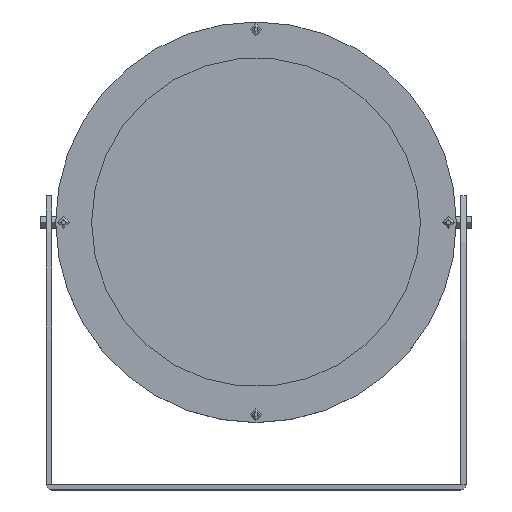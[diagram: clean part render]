
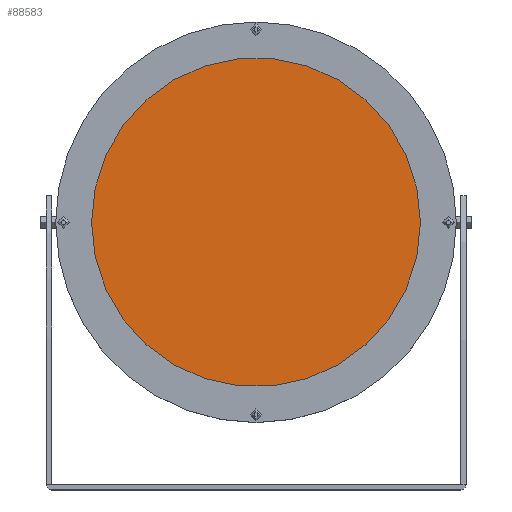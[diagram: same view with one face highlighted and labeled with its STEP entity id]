
A CAD part, top view. The second image highlights one B-rep face of the part: STEP entity #88583.
In plain terms, the highlighted planar face has unit normal (0, 0, 1).
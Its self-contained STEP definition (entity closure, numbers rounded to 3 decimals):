
#9546=PLANE('',#97561);
#14502=FACE_OUTER_BOUND('',#20061,.T.);
#20061=EDGE_LOOP('',(#80506));
#32783=CIRCLE('',#97559,68.75);
#41101=VERTEX_POINT('',#267268);
#54311=EDGE_CURVE('',#41101,#41101,#32783,.T.);
#80506=ORIENTED_EDGE('',*,*,#54311,.T.);
#88583=ADVANCED_FACE('',(#14502),#9546,.T.);
#97559=AXIS2_PLACEMENT_3D('',#267269,#119345,#119346);
#97561=AXIS2_PLACEMENT_3D('',#267273,#119350,#119351);
#119345=DIRECTION('center_axis',(0.,0.,1.));
#119346=DIRECTION('ref_axis',(1.,0.,0.));
#119350=DIRECTION('center_axis',(0.,0.,1.));
#119351=DIRECTION('ref_axis',(1.,0.,0.));
#267268=CARTESIAN_POINT('',(496.622,0.,0.));
#267269=CARTESIAN_POINT('Origin',(565.372,0.,0.));
#267273=CARTESIAN_POINT('Origin',(565.372,0.,0.));
